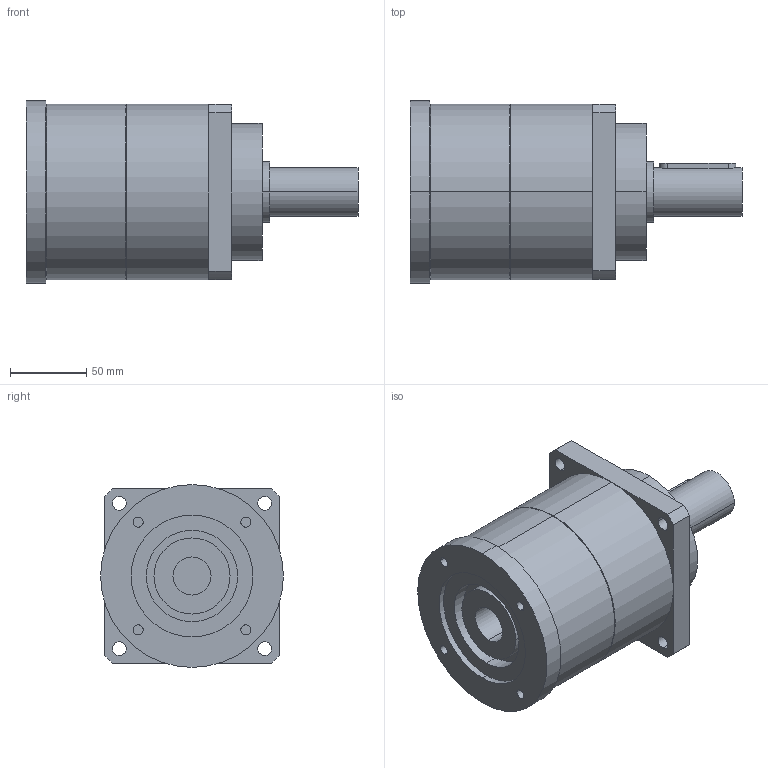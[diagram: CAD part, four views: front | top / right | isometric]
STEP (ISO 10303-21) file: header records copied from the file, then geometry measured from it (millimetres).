
FILE_DESCRIPTION(('CoCreate Modeling STEP Export'),'2;1');
FILE_NAME('GPT120_ig-3-4-5-7-10_32_B5A_25_P05.stp','2015-02-04T17:00:09',(''),(''),'CoCreate Modeling STEP processor for AP214 (Solid Model)','CoCreate Modeling 16.00C 25-Feb-2009 (C) Parametric Technology GmbH','');
FILE_SCHEMA(('AUTOMOTIVE_DESIGN { 1 0 10303 214 1 1 1 1 }'));
Length unit declared in the file: millimetre
Products named in the file (2): GPT120_ig-3-4-5-7-10_32_B5A_25_P05
Assembly tree (1 placements, depth 2):
  GPT120_ig-3-4-5-7-10_32_B5A_25_P05
    GPT120_ig-3-4-5-7-10_32_B5A_25_P05
Bounding box: 218 x 120 x 120 mm (x, y, z)
Volume: 1569986 mm3; surface area: 102818.7 mm2
Topology: 1 solids, 1 shells, 75 faces, 187 edges, 128 vertices
Faces by surface type: cylinder 44, plane 27, cone 4
Entity records: 2360 total; most frequent: CARTESIAN_POINT 721, ORIENTED_EDGE 374, DIRECTION 280, EDGE_CURVE 187, VERTEX_POINT 128, AXIS2_PLACEMENT_3D 105, EDGE_LOOP 97, FACE_OUTER_BOUND 75
